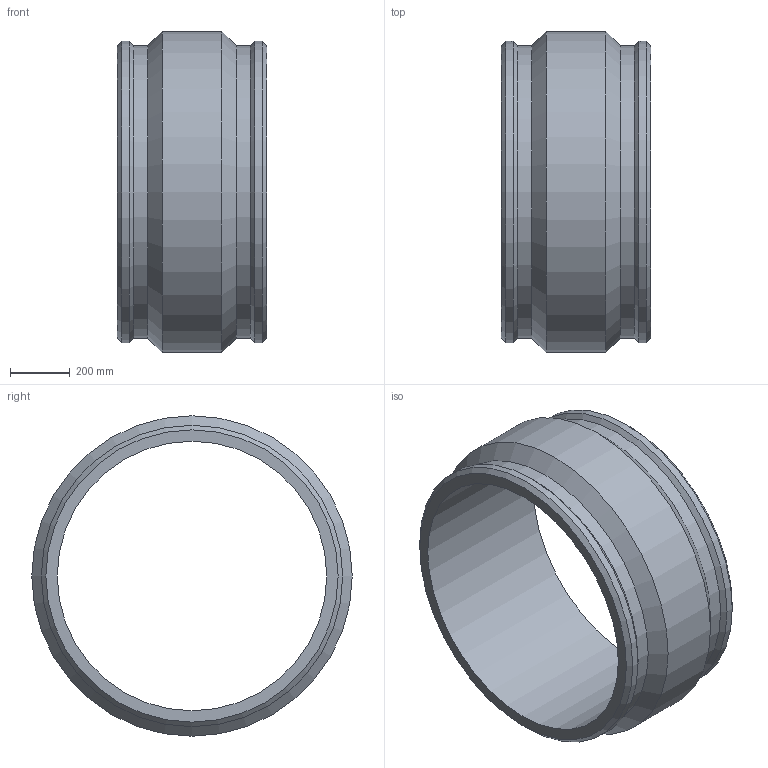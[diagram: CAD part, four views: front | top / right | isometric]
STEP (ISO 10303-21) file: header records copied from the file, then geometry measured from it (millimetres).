
FILE_DESCRIPTION(/* description */ ('PLASSON COUPLER 900'),/* implementation_level */ '2;1');
FILE_NAME(/* name */ 'C:\Dropbox\KIMPROJECTS-Inventor\99-16-3568-Processing\ElectroFusion Fittings\21.04\490103\490103900.ipt.stp',/* time_stamp */ '2019-04-21T15:12:56+03:00',/* author */ ('KIM'),/* organization */ (''),/* preprocessor_version */ 'ST-DEVELOPER v15.6',/* originating_system */ 'Autodesk Inventor 2015',/* authorisation */ '');
FILE_SCHEMA (('AUTOMOTIVE_DESIGN { 1 0 10303 214 3 1 1 }'));
Length unit declared in the file: millimetre
Products named in the file (1): 490103900
Bounding box: 500 x 1070 x 1070 mm (x, y, z)
Volume: 96874313.7 mm3; surface area: 3454968.9 mm2
Topology: 1 solids, 1 shells, 28 faces, 50 edges, 28 vertices
Faces by surface type: cylinder 14, plane 8, cone 6
Full cylindrical faces by diameter (mm): 4 x2, 10 x2, 900 x1, 975.82 x2, 1006 x2, 1070 x1
Entity records: 654 total; most frequent: CARTESIAN_POINT 155, DIRECTION 110, ORIENTED_EDGE 60, AXIS2_PLACEMENT_3D 55, EDGE_LOOP 52, EDGE_CURVE 30, FACE_OUTER_BOUND 28, ADVANCED_FACE 28
